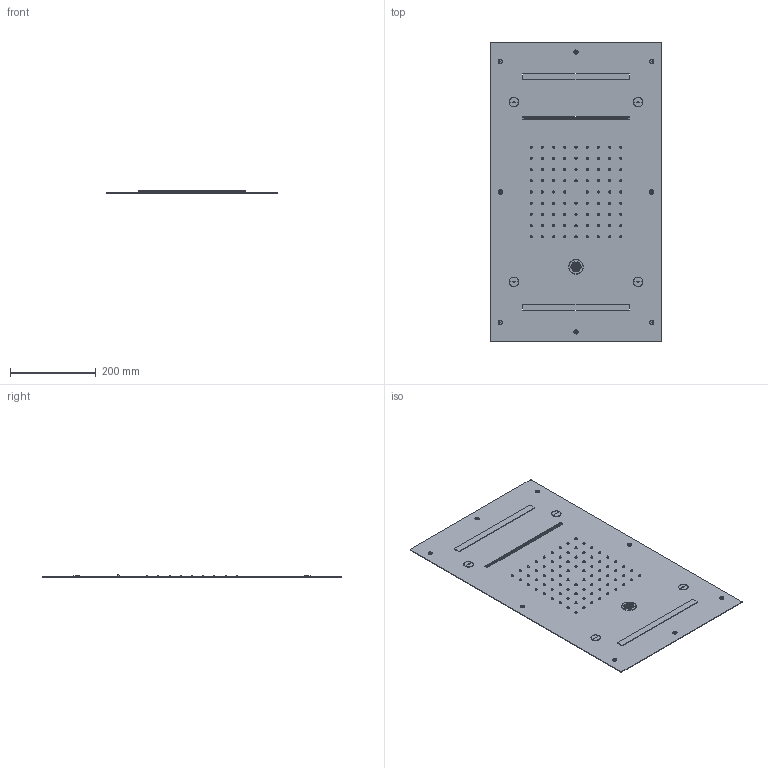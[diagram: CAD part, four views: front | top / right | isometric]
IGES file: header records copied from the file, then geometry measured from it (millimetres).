
Start section:  PTC IGES file: 90948.igs
Global section: file name: 90948.igs; native system: Creo Parametric by PTC Inc.; preprocessor: 2018100; author: carloff; organization: Unknown; date: 20210416.105946; units: millimetre
Bounding box: 400 x 700 x 5.96 mm (x, y, z)
Surface area: 580487.3 mm2 (no closed solid volume)
Topology: 0 solids, 0 shells, 2056 faces, 9604 edges, 9592 vertices
Faces by surface type: revolution 1746, bspline 310
